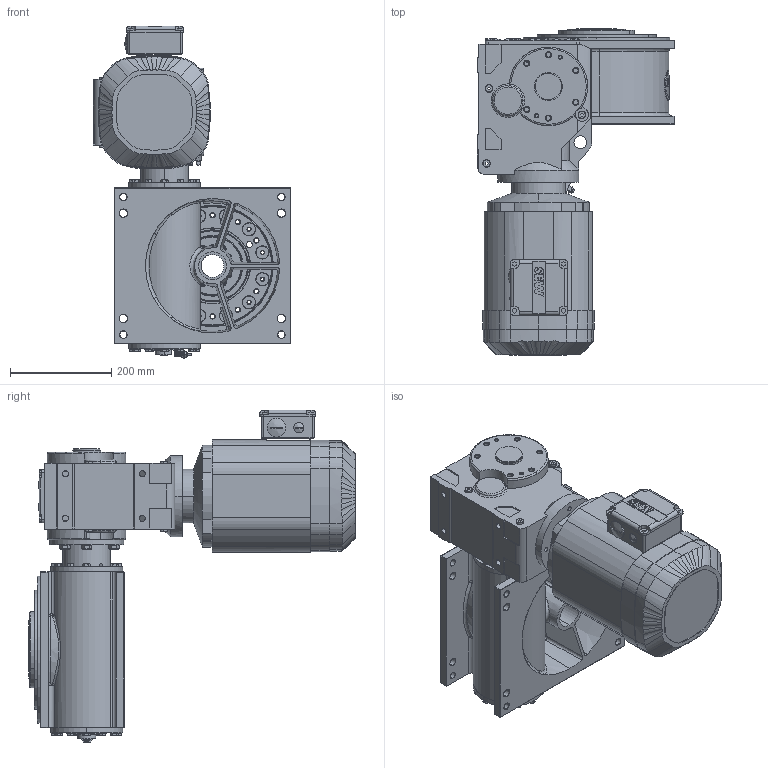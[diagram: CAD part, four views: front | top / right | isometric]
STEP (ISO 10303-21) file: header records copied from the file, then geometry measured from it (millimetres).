
FILE_DESCRIPTION (( 'STEP AP214' ), '1' );
FILE_NAME ('M235_SEW_KA67DRE112M4_D2_12.STEP', '2020-06-17T05:41:47', ( '' ), ( '' ), 'SwSTEP 2.0', 'SolidWorks 2020', '' );
FILE_SCHEMA (( 'AUTOMOTIVE_DESIGN' ));
Length unit declared in the file: millimetre
Products named in the file (1): M235_SEW_KA67DRE112M4_D2_12
Bounding box: 389 x 644 x 655.5 mm (x, y, z)
Surface area: 1391223.4 mm2 (no closed solid volume)
Topology: 0 solids, 105 shells, 1704 faces, 5216 edges, 3501 vertices
Faces by surface type: plane 653, cylinder 570, cone 291, bspline 146, torus 28, sphere 16
Entity records: 89183 total; most frequent: CARTESIAN_POINT 25527, DIRECTION 9254, ORIENTED_EDGE 8742, EDGE_CURVE 5206, VERTEX_POINT 3501, AXIS2_PLACEMENT_3D 3426, VECTOR 2402, LINE 2402
